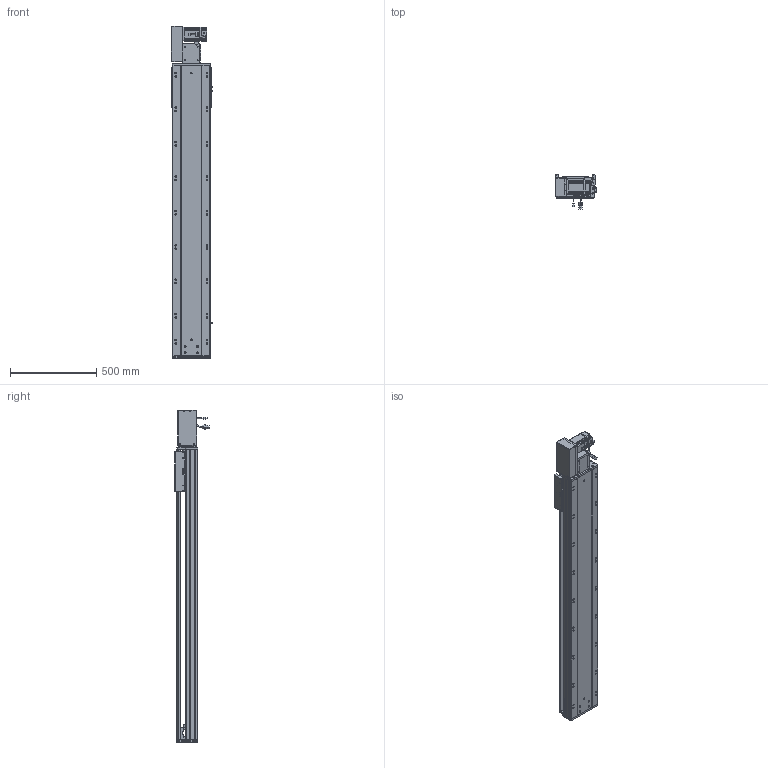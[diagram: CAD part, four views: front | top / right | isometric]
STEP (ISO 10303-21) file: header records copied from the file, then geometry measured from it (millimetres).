
FILE_DESCRIPTION (( 'STEP AP203' ), '1' );
FILE_NAME ('RY220-T-300-LK.SLDASM_1350.step', '2022-07-25T08:14:20', ( '' ), ( '' ), 'SwSTEP 2.0', 'SolidWorks 2016', '' );
FILE_SCHEMA (( 'CONFIG_CONTROL_DESIGN' ));
Length unit declared in the file: millimetre
Products named in the file (14): RY220翋肮祭謫裔啣; 110A-T-肮祭謫釱傷裔; 滅袉蝶18-15; RY220-T-蛌殏萇儂假蚾啣(750W); RY220-T菁釱-300_1350; RY220圉猾敕々湍臏賑輸; 怢湛750W_ECMA-CX0807ES; RY220翋肮祭謫釱; RY220-T-300-LK.SLDASM_1350; RY220-俋离672覜茼んえ; RY220-同步轮副支撑座6304×2; 覜茼ん672; RY220-T-300-奻裔啣_1350; RY220-T-湍謫欶(鍼踢)
Assembly tree (18 placements, depth 2):
  RY220-T-300-LK.SLDASM_1350
    RY220-T菁釱-300_1350
    RY220翋肮祭謫釱
    覜茼ん672  x3
    RY220圉猾敕々湍臏賑輸
    RY220-T-300-奻裔啣_1350
    RY220-俋离672覜茼んえ
    滅袉蝶18-15  x3
    RY220翋肮祭謫裔啣  x2
    110A-T-肮祭謫釱傷裔
    怢湛750W_ECMA-CX0807ES
    RY220-T-湍謫欶(鍼踢)
    RY220-T-蛌殏萇儂假蚾啣(750W)
    RY220-同步轮副支撑座6304×2
Bounding box: 239.7 x 198.77 x 1929 mm (x, y, z)
Volume: 14525841.3 mm3; surface area: 4318301 mm2
Topology: 19 solids, 19 shells, 2692 faces, 7431 edges, 4704 vertices
Faces by surface type: cylinder 1272, plane 1069, cone 269, bspline 56, sphere 16, torus 10
Entity records: 89603 total; most frequent: CARTESIAN_POINT 25515, ORIENTED_EDGE 13306, DIRECTION 12620, EDGE_CURVE 6653, AXIS2_PLACEMENT_3D 4478, VERTEX_POINT 4328, VECTOR 3664, LINE 3664
